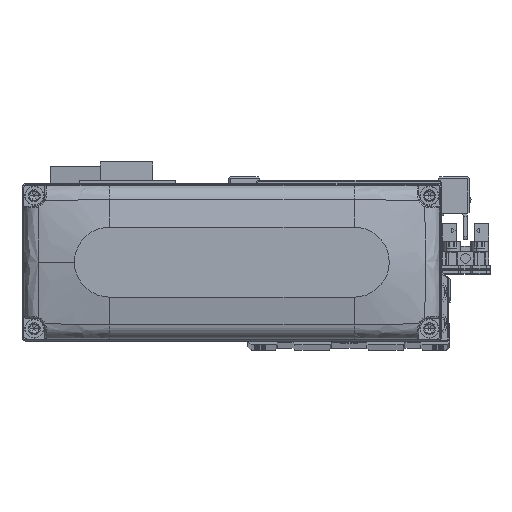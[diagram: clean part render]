
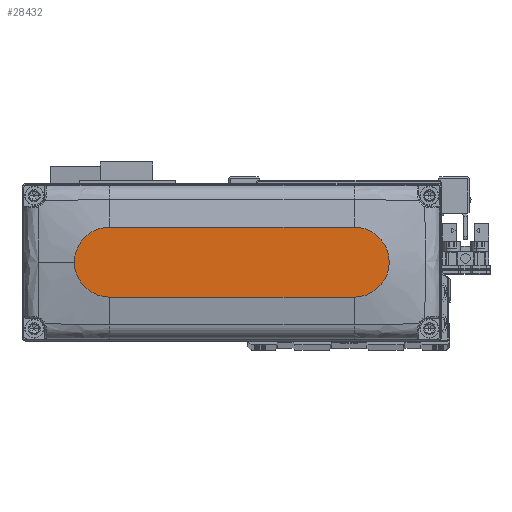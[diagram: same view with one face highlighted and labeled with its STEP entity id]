
A CAD part, top view. The second image highlights one B-rep face of the part: STEP entity #28432.
In plain terms, the highlighted planar face has unit normal (0, 0, 1).
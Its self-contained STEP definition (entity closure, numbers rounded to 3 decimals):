
#1505 = DIRECTION ( 'NONE',  ( 1., 0., 0. ) ) ;
#1945 = DIRECTION ( 'NONE',  ( 0., 0., 1. ) ) ;
#2897 = EDGE_CURVE ( 'NONE', #9171, #4825, #39190, .T. ) ;
#3458 = LINE ( 'NONE', #16107, #28624 ) ;
#4473 = AXIS2_PLACEMENT_3D ( 'NONE', #17297, #29889, #1505 ) ;
#4806 = LINE ( 'NONE', #17455, #39536 ) ;
#4825 = VERTEX_POINT ( 'NONE', #23410 ) ;
#6158 = CARTESIAN_POINT ( 'NONE',  ( 0., 0., 28. ) ) ;
#6362 = ORIENTED_EDGE ( 'NONE', *, *, #2897, .T. ) ;
#6859 = ORIENTED_EDGE ( 'NONE', *, *, #33615, .T. ) ;
#9171 = VERTEX_POINT ( 'NONE', #12889 ) ;
#11873 = CARTESIAN_POINT ( 'NONE',  ( 35., 0., 28. ) ) ;
#12042 = ORIENTED_EDGE ( 'NONE', *, *, #38275, .T. ) ;
#12495 = AXIS2_PLACEMENT_3D ( 'NONE', #11873, #24458, #37064 ) ;
#12889 = CARTESIAN_POINT ( 'NONE',  ( 45., 0., 28. ) ) ;
#14483 = EDGE_CURVE ( 'NONE', #4825, #29105, #4806, .T. ) ;
#14565 = EDGE_CURVE ( 'NONE', #17298, #9171, #30319, .T. ) ;
#14627 = DIRECTION ( 'NONE',  ( 1., 0., 0. ) ) ;
#16107 = CARTESIAN_POINT ( 'NONE',  ( -35., -10., 28. ) ) ;
#16679 = CARTESIAN_POINT ( 'NONE',  ( -35., 10., 28. ) ) ;
#17297 = CARTESIAN_POINT ( 'NONE',  ( -35., 0., 28. ) ) ;
#17298 = VERTEX_POINT ( 'NONE', #19263 ) ;
#17455 = CARTESIAN_POINT ( 'NONE',  ( -35., 10., 28. ) ) ;
#18790 = DIRECTION ( 'NONE',  ( 0., 0., 1. ) ) ;
#19263 = CARTESIAN_POINT ( 'NONE',  ( 35., -10., 28. ) ) ;
#19683 = AXIS2_PLACEMENT_3D ( 'NONE', #6158, #18790, #31392 ) ;
#21338 = FACE_OUTER_BOUND ( 'NONE', #22848, .T. ) ;
#22330 = CIRCLE ( 'NONE', #4473, 10. ) ;
#22848 = EDGE_LOOP ( 'NONE', ( #38015, #12042, #6859, #23616, #6362 ) ) ;
#23410 = CARTESIAN_POINT ( 'NONE',  ( 35., 10., 28. ) ) ;
#23609 = VERTEX_POINT ( 'NONE', #25723 ) ;
#23616 = ORIENTED_EDGE ( 'NONE', *, *, #14565, .T. ) ;
#24458 = DIRECTION ( 'NONE',  ( 0., 0., 1. ) ) ;
#25723 = CARTESIAN_POINT ( 'NONE',  ( -35., -10., 28. ) ) ;
#28432 = ADVANCED_FACE ( 'NONE', ( #21338 ), #33940, .T. ) ;
#28624 = VECTOR ( 'NONE', #28708, 1000. ) ;
#28708 = DIRECTION ( 'NONE',  ( 1., 0., 0. ) ) ;
#29105 = VERTEX_POINT ( 'NONE', #16679 ) ;
#29889 = DIRECTION ( 'NONE',  ( 0., 0., 1. ) ) ;
#30048 = DIRECTION ( 'NONE',  ( -1., 0., 0. ) ) ;
#30319 = CIRCLE ( 'NONE', #12495, 10. ) ;
#30321 = CARTESIAN_POINT ( 'NONE',  ( 35., 0., 28. ) ) ;
#31392 = DIRECTION ( 'NONE',  ( 1., 0., 0. ) ) ;
#33615 = EDGE_CURVE ( 'NONE', #23609, #17298, #3458, .T. ) ;
#33940 = PLANE ( 'NONE',  #19683 ) ;
#37064 = DIRECTION ( 'NONE',  ( 1., 0., 0. ) ) ;
#38015 = ORIENTED_EDGE ( 'NONE', *, *, #14483, .T. ) ;
#38275 = EDGE_CURVE ( 'NONE', #29105, #23609, #22330, .T. ) ;
#39190 = CIRCLE ( 'NONE', #39783, 10. ) ;
#39536 = VECTOR ( 'NONE', #30048, 1000. ) ;
#39783 = AXIS2_PLACEMENT_3D ( 'NONE', #30321, #1945, #14627 ) ;
